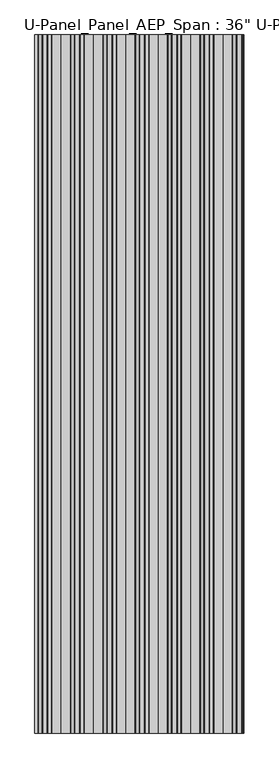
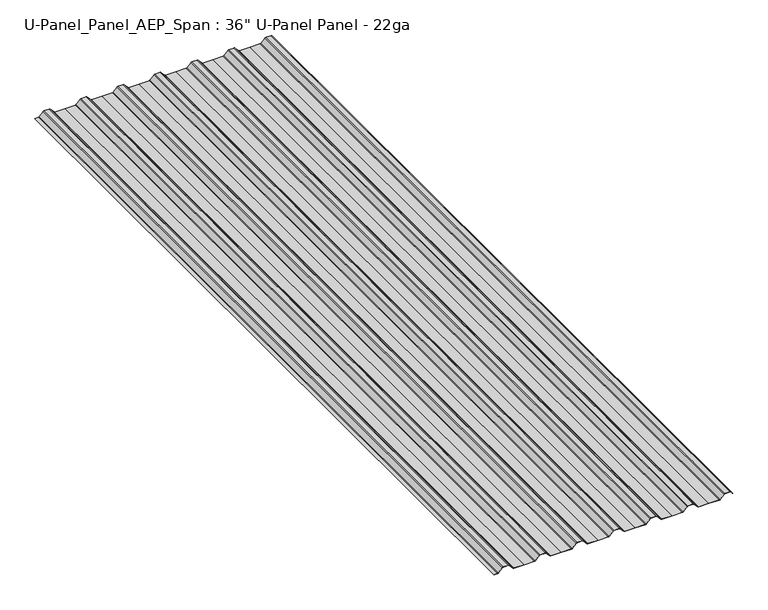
"""IFC4 building model written with IfcOpenShell, lengths in millimetres: proxy geometry."""

from ifc_helpers import new_model, si_unit, point, frame, frame_2d, origin, place, context, project, spatial, polyline, circle_curve, trimmed, segment, composite_curve, outline, extrude, source, transform, mapped, element, save


def proxy_758662c8(model_context):
    return source(origin(), model_context, "Body", "SweptSolid", [
        extrude(outline(composite_curve([segment(polyline([(15.6340253, 477.2313581), (10.9128032, 480.9199811), (11.3944474, 481.5364577), (16.11908, 477.8000439), (19.4700766, 474.6834496)]), True, "CONTINUOUS"), segment(trimmed(circle_curve(frame_2d((15.9337897, 470.8811948)), 5.1925395), [point((19.4700766, 474.6834496))], [point((21.1263292, 470.8811948))], False, "CARTESIAN"), True, "CONTINUOUS"), segment(polyline([(21.1263292, 470.8811948), (21.1263292, 449.7957586)]), True, "CONTINUOUS"), segment(trimmed(circle_curve(frame_2d((15.9337897, 449.7957586)), 5.1925395), [point((21.1263292, 449.7957586))], [point((19.4750932, 445.9981756))], False, "CARTESIAN"), True, "CONTINUOUS"), segment(polyline([(19.4750932, 445.9981756), (2.1208837, 429.8151135)]), True, "CONTINUOUS"), segment(trimmed(circle_curve(frame_2d((5.0678816, 426.6548452)), 4.3211216), [point((2.1208837, 429.8151135))], [point((0.74676, 426.6548452))], True, "CARTESIAN"), True, "CONTINUOUS"), segment(polyline([(0.74676, 426.6548452), (0.74676, 383.6154148), (0.74676, 340.5759844)]), True, "CONTINUOUS"), segment(trimmed(circle_curve(frame_2d((5.0678816, 340.5759844)), 4.3211216), [point((0.74676, 340.5759844))], [point((2.1208837, 337.4157161))], True, "CARTESIAN"), True, "CONTINUOUS"), segment(polyline([(2.1208837, 337.4157161), (19.4750932, 321.232654)]), True, "CONTINUOUS"), segment(trimmed(circle_curve(frame_2d((15.9337897, 317.435071)), 5.1925395), [point((19.4750932, 321.232654))], [point((21.1263292, 317.435071))], False, "CARTESIAN"), True, "CONTINUOUS"), segment(polyline([(21.1263292, 317.435071), (21.1263292, 296.3495927)]), True, "CONTINUOUS"), segment(trimmed(circle_curve(frame_2d((15.9337897, 296.3495927)), 5.1925395), [point((21.1263292, 296.3495927))], [point((19.4750932, 292.5520097))], False, "CARTESIAN"), True, "CONTINUOUS"), segment(polyline([(19.4750932, 292.5520097), (2.1208837, 276.3689476)]), True, "CONTINUOUS"), segment(trimmed(circle_curve(frame_2d((5.0678816, 273.2086793)), 4.3211216), [point((2.1208837, 276.3689476))], [point((0.74676, 273.2086793))], True, "CARTESIAN"), True, "CONTINUOUS"), segment(polyline([(0.74676, 273.2086793), (0.74676, 230.1692489), (0.74676, 187.1298184)]), True, "CONTINUOUS"), segment(trimmed(circle_curve(frame_2d((5.0678816, 187.1298184)), 4.3211216), [point((0.74676, 187.1298184))], [point((2.1208837, 183.9695502))], True, "CARTESIAN"), True, "CONTINUOUS"), segment(polyline([(2.1208837, 183.9695502), (19.4750932, 167.7864881)]), True, "CONTINUOUS"), segment(trimmed(circle_curve(frame_2d((15.9337897, 163.9889051)), 5.1925395), [point((19.4750932, 167.7864881))], [point((21.1263292, 163.9889051))], False, "CARTESIAN"), True, "CONTINUOUS"), segment(polyline([(21.1263292, 163.9889051), (21.1263292, 142.9034268)]), True, "CONTINUOUS"), segment(trimmed(circle_curve(frame_2d((15.9337897, 142.9034268)), 5.1925395), [point((21.1263292, 142.9034268))], [point((19.4750932, 139.1058437))], False, "CARTESIAN"), True, "CONTINUOUS"), segment(polyline([(19.4750932, 139.1058437), (2.1208837, 122.9227816)]), True, "CONTINUOUS"), segment(trimmed(circle_curve(frame_2d((5.0678816, 119.7625134)), 4.3211216), [point((2.1208837, 122.9227816))], [point((0.74676, 119.7625134))], True, "CARTESIAN"), True, "CONTINUOUS"), segment(polyline([(0.74676, 119.7625134), (0.74676, 76.723083), (0.74676, 33.6836525)]), True, "CONTINUOUS"), segment(trimmed(circle_curve(frame_2d((5.0678816, 33.6836525)), 4.3211216), [point((0.74676, 33.6836525))], [point((2.1208837, 30.5233843))], True, "CARTESIAN"), True, "CONTINUOUS"), segment(polyline([(2.1208837, 30.5233843), (19.4750932, 14.3403222)]), True, "CONTINUOUS"), segment(trimmed(circle_curve(frame_2d((15.9337897, 10.5427392)), 5.1925395), [point((19.4750932, 14.3403222))], [point((21.1263292, 10.5427392))], False, "CARTESIAN"), True, "CONTINUOUS"), segment(polyline([(21.1263292, 10.5427392), (21.1263292, -10.5427392)]), True, "CONTINUOUS"), segment(trimmed(circle_curve(frame_2d((15.9337897, -10.5427392)), 5.1925395), [point((21.1263292, -10.5427392))], [point((19.4750932, -14.3403222))], False, "CARTESIAN"), True, "CONTINUOUS"), segment(polyline([(19.4750932, -14.3403222), (2.1208837, -30.5233843)]), True, "CONTINUOUS"), segment(trimmed(circle_curve(frame_2d((5.0678816, -33.6836525)), 4.3211216), [point((2.1208837, -30.5233843))], [point((0.74676, -33.6836525))], True, "CARTESIAN"), True, "CONTINUOUS"), segment(polyline([(0.74676, -33.6836525), (0.74676, -76.723083), (0.74676, -119.7625134)]), True, "CONTINUOUS"), segment(trimmed(circle_curve(frame_2d((5.0678816, -119.7625134)), 4.3211216), [point((0.74676, -119.7625134))], [point((2.1208837, -122.9227816))], True, "CARTESIAN"), True, "CONTINUOUS"), segment(polyline([(2.1208837, -122.9227816), (19.4750932, -139.1058437)]), True, "CONTINUOUS"), segment(trimmed(circle_curve(frame_2d((15.9337897, -142.9034268)), 5.1925395), [point((19.4750932, -139.1058437))], [point((21.1263292, -142.9034268))], False, "CARTESIAN"), True, "CONTINUOUS"), segment(polyline([(21.1263292, -142.9034268), (21.1263292, -163.9889051)]), True, "CONTINUOUS"), segment(trimmed(circle_curve(frame_2d((15.9337897, -163.9889051)), 5.1925395), [point((21.1263292, -163.9889051))], [point((19.4750932, -167.7864881))], False, "CARTESIAN"), True, "CONTINUOUS"), segment(polyline([(19.4750932, -167.7864881), (2.1208837, -183.9695502)]), True, "CONTINUOUS"), segment(trimmed(circle_curve(frame_2d((5.0678816, -187.1298184)), 4.3211216), [point((2.1208837, -183.9695502))], [point((0.74676, -187.1298184))], True, "CARTESIAN"), True, "CONTINUOUS"), segment(polyline([(0.74676, -187.1298184), (0.74676, -230.1692489), (0.74676, -273.2086793)]), True, "CONTINUOUS"), segment(trimmed(circle_curve(frame_2d((5.0678816, -273.2086793)), 4.3211216), [point((0.74676, -273.2086793))], [point((2.1208837, -276.3689476))], True, "CARTESIAN"), True, "CONTINUOUS"), segment(polyline([(2.1208837, -276.3689476), (19.4750932, -292.5520097)]), True, "CONTINUOUS"), segment(trimmed(circle_curve(frame_2d((15.9337897, -296.3495927)), 5.1925395), [point((19.4750932, -292.5520097))], [point((21.1263292, -296.3495927))], False, "CARTESIAN"), True, "CONTINUOUS"), segment(polyline([(21.1263292, -296.3495927), (21.1263292, -317.435071)]), True, "CONTINUOUS"), segment(trimmed(circle_curve(frame_2d((15.9337897, -317.435071)), 5.1925395), [point((21.1263292, -317.435071))], [point((19.4750932, -321.232654))], False, "CARTESIAN"), True, "CONTINUOUS"), segment(polyline([(19.4750932, -321.232654), (2.1208837, -337.4157161)]), True, "CONTINUOUS"), segment(trimmed(circle_curve(frame_2d((5.0678816, -340.5759844)), 4.3211216), [point((2.1208837, -337.4157161))], [point((0.74676, -340.5759844))], True, "CARTESIAN"), True, "CONTINUOUS"), segment(polyline([(0.74676, -340.5759844), (0.74676, -383.6154148), (0.74676, -426.6548452)]), True, "CONTINUOUS"), segment(trimmed(circle_curve(frame_2d((5.0678816, -426.6548452)), 4.3211216), [point((0.74676, -426.6548452))], [point((2.1208837, -429.8151135))], True, "CARTESIAN"), True, "CONTINUOUS"), segment(polyline([(2.1208837, -429.8151135), (19.4750932, -445.9981756)]), True, "CONTINUOUS"), segment(trimmed(circle_curve(frame_2d((15.9337897, -449.7957586)), 5.1925395), [point((19.4750932, -445.9981756))], [point((21.1263292, -449.7957586))], False, "CARTESIAN"), True, "CONTINUOUS"), segment(polyline([(21.1263292, -449.7957586), (21.1263292, -470.8812369)]), True, "CONTINUOUS"), segment(trimmed(circle_curve(frame_2d((15.9337897, -470.8812369)), 5.1925395), [point((21.1263292, -470.8812369))], [point((19.4750932, -474.6788199))], False, "CARTESIAN"), True, "CONTINUOUS"), segment(polyline([(19.4750932, -474.6788199), (2.1208837, -490.861882)]), True, "CONTINUOUS"), segment(trimmed(circle_curve(frame_2d((5.0678816, -494.0221503)), 4.3211216), [point((2.1208837, -490.861882))], [point((0.74676, -494.0221503))], True, "CARTESIAN"), True, "CONTINUOUS"), segment(polyline([(0.74676, -494.0221503), (0.78232, -509.209136), (0.0, -509.209136), (0.0, -494.0425821)]), True, "CONTINUOUS"), segment(trimmed(circle_curve(frame_2d((5.1148716, -494.0425821)), 5.1148716), [point((0.0, -494.0425821))], [point((1.6265375, -490.3018019))], False, "CARTESIAN"), True, "CONTINUOUS"), segment(polyline([(1.6265375, -490.3018019), (18.980747, -474.1187398)]), True, "CONTINUOUS"), segment(trimmed(circle_curve(frame_2d((15.9807797, -470.9016688)), 4.3987895), [point((18.980747, -474.1187398))], [point((20.3795692, -470.9016688))], True, "CARTESIAN"), True, "CONTINUOUS"), segment(polyline([(20.3795692, -470.9016688), (20.3795692, -449.7753268)]), True, "CONTINUOUS"), segment(trimmed(circle_curve(frame_2d((15.9807797, -449.7753268)), 4.3987895), [point((20.3795692, -449.7753268))], [point((18.980747, -446.5582557))], True, "CARTESIAN"), True, "CONTINUOUS"), segment(polyline([(18.980747, -446.5582557), (1.6265375, -430.3751936)]), True, "CONTINUOUS"), segment(trimmed(circle_curve(frame_2d((5.1148716, -426.6344134)), 5.1148716), [point((1.6265375, -430.3751936))], [point((0.0, -426.6344134))], False, "CARTESIAN"), True, "CONTINUOUS"), segment(polyline([(0.0, -426.6344134), (0.0, -383.6154148), (0.0, -340.5964162)]), True, "CONTINUOUS"), segment(trimmed(circle_curve(frame_2d((5.1148716, -340.5964162)), 5.1148716), [point((0.0, -340.5964162))], [point((1.6265375, -336.855636))], False, "CARTESIAN"), True, "CONTINUOUS"), segment(polyline([(1.6265375, -336.855636), (18.980747, -320.6725739)]), True, "CONTINUOUS"), segment(trimmed(circle_curve(frame_2d((15.9807797, -317.4555028)), 4.3987895), [point((18.980747, -320.6725739))], [point((20.3795692, -317.4555028))], True, "CARTESIAN"), True, "CONTINUOUS"), segment(polyline([(20.3795692, -317.4555028), (20.3795692, -296.3291608)]), True, "CONTINUOUS"), segment(trimmed(circle_curve(frame_2d((15.9807797, -296.3291608)), 4.3987895), [point((20.3795692, -296.3291608))], [point((18.980747, -293.1120898))], True, "CARTESIAN"), True, "CONTINUOUS"), segment(polyline([(18.980747, -293.1120898), (1.6265375, -276.9290277)]), True, "CONTINUOUS"), segment(trimmed(circle_curve(frame_2d((5.1148716, -273.1882475)), 5.1148716), [point((1.6265375, -276.9290277))], [point((0.0, -273.1882475))], False, "CARTESIAN"), True, "CONTINUOUS"), segment(polyline([(0.0, -273.1882475), (0.0, -230.1692489), (0.0, -187.1502503)]), True, "CONTINUOUS"), segment(trimmed(circle_curve(frame_2d((5.1148716, -187.1502503)), 5.1148716), [point((0.0, -187.1502503))], [point((1.6265375, -183.40947))], False, "CARTESIAN"), True, "CONTINUOUS"), segment(polyline([(1.6265375, -183.40947), (18.980747, -167.2264079)]), True, "CONTINUOUS"), segment(trimmed(circle_curve(frame_2d((15.9807797, -164.0093369)), 4.3987895), [point((18.980747, -167.2264079))], [point((20.3795692, -164.0093369))], True, "CARTESIAN"), True, "CONTINUOUS"), segment(polyline([(20.3795692, -164.0093369), (20.3795692, -142.8829949)]), True, "CONTINUOUS"), segment(trimmed(circle_curve(frame_2d((15.9807797, -142.8829949)), 4.3987895), [point((20.3795692, -142.8829949))], [point((18.980747, -139.6659239))], True, "CARTESIAN"), True, "CONTINUOUS"), segment(polyline([(18.980747, -139.6659239), (1.6265375, -123.4828618)]), True, "CONTINUOUS"), segment(trimmed(circle_curve(frame_2d((5.1148716, -119.7420816)), 5.1148716), [point((1.6265375, -123.4828618))], [point((0.0, -119.7420816))], False, "CARTESIAN"), True, "CONTINUOUS"), segment(polyline([(0.0, -119.7420816), (0.0, -76.723083), (0.0, -33.7040844)]), True, "CONTINUOUS"), segment(trimmed(circle_curve(frame_2d((5.1148716, -33.7040844)), 5.1148716), [point((0.0, -33.7040844))], [point((1.6265375, -29.9633041))], False, "CARTESIAN"), True, "CONTINUOUS"), segment(polyline([(1.6265375, -29.9633041), (18.980747, -13.780242)]), True, "CONTINUOUS"), segment(trimmed(circle_curve(frame_2d((15.9807797, -10.563171)), 4.3987895), [point((18.980747, -13.780242))], [point((20.3795692, -10.563171))], True, "CARTESIAN"), True, "CONTINUOUS"), segment(polyline([(20.3795692, -10.563171), (20.3795692, 10.563171)]), True, "CONTINUOUS"), segment(trimmed(circle_curve(frame_2d((15.9807797, 10.563171)), 4.3987895), [point((20.3795692, 10.563171))], [point((18.980747, 13.780242))], True, "CARTESIAN"), True, "CONTINUOUS"), segment(polyline([(18.980747, 13.780242), (1.6265375, 29.9633041)]), True, "CONTINUOUS"), segment(trimmed(circle_curve(frame_2d((5.1148716, 33.7040844)), 5.1148716), [point((1.6265375, 29.9633041))], [point((0.0, 33.7040844))], False, "CARTESIAN"), True, "CONTINUOUS"), segment(polyline([(0.0, 33.7040844), (0.0, 76.723083), (0.0, 119.7420816)]), True, "CONTINUOUS"), segment(trimmed(circle_curve(frame_2d((5.1148716, 119.7420816)), 5.1148716), [point((0.0, 119.7420816))], [point((1.6265375, 123.4828618))], False, "CARTESIAN"), True, "CONTINUOUS"), segment(polyline([(1.6265375, 123.4828618), (18.980747, 139.6659239)]), True, "CONTINUOUS"), segment(trimmed(circle_curve(frame_2d((15.9807797, 142.8829949)), 4.3987895), [point((18.980747, 139.6659239))], [point((20.3795692, 142.8829949))], True, "CARTESIAN"), True, "CONTINUOUS"), segment(polyline([(20.3795692, 142.8829949), (20.3795692, 164.0093369)]), True, "CONTINUOUS"), segment(trimmed(circle_curve(frame_2d((15.9807797, 164.0093369)), 4.3987895), [point((20.3795692, 164.0093369))], [point((18.980747, 167.2264079))], True, "CARTESIAN"), True, "CONTINUOUS"), segment(polyline([(18.980747, 167.2264079), (1.6265375, 183.40947)]), True, "CONTINUOUS"), segment(trimmed(circle_curve(frame_2d((5.1148716, 187.1502503)), 5.1148716), [point((1.6265375, 183.40947))], [point((0.0, 187.1502503))], False, "CARTESIAN"), True, "CONTINUOUS"), segment(polyline([(0.0, 187.1502503), (0.0, 230.1692489), (0.0, 273.1882475)]), True, "CONTINUOUS"), segment(trimmed(circle_curve(frame_2d((5.1148716, 273.1882475)), 5.1148716), [point((0.0, 273.1882475))], [point((1.6265375, 276.9290277))], False, "CARTESIAN"), True, "CONTINUOUS"), segment(polyline([(1.6265375, 276.9290277), (18.980747, 293.1120898)]), True, "CONTINUOUS"), segment(trimmed(circle_curve(frame_2d((15.9807797, 296.3291608)), 4.3987895), [point((18.980747, 293.1120898))], [point((20.3795692, 296.3291608))], True, "CARTESIAN"), True, "CONTINUOUS"), segment(polyline([(20.3795692, 296.3291608), (20.3795692, 317.4555028)]), True, "CONTINUOUS"), segment(trimmed(circle_curve(frame_2d((15.9807797, 317.4555028)), 4.3987895), [point((20.3795692, 317.4555028))], [point((18.980747, 320.6725739))], True, "CARTESIAN"), True, "CONTINUOUS"), segment(polyline([(18.980747, 320.6725739), (1.6265375, 336.855636)]), True, "CONTINUOUS"), segment(trimmed(circle_curve(frame_2d((5.1148716, 340.5964162)), 5.1148716), [point((1.6265375, 336.855636))], [point((0.0, 340.5964162))], False, "CARTESIAN"), True, "CONTINUOUS"), segment(polyline([(0.0, 340.5964162), (0.0, 383.6154148), (0.0, 426.6344134)]), True, "CONTINUOUS"), segment(trimmed(circle_curve(frame_2d((5.1148716, 426.6344134)), 5.1148716), [point((0.0, 426.6344134))], [point((1.6265375, 430.3751936))], False, "CARTESIAN"), True, "CONTINUOUS"), segment(polyline([(1.6265375, 430.3751936), (18.980747, 446.5582557)]), True, "CONTINUOUS"), segment(trimmed(circle_curve(frame_2d((15.9807797, 449.7753268)), 4.3987895), [point((18.980747, 446.5582557))], [point((20.3795692, 449.7753268))], True, "CARTESIAN"), True, "CONTINUOUS"), segment(polyline([(20.3795692, 449.7753268), (20.3795692, 470.9016688)]), True, "CONTINUOUS"), segment(trimmed(circle_curve(frame_2d((15.9807797, 470.9016688)), 4.3987895), [point((20.3795692, 470.9016688))], [point((18.9807463, 474.1187404))], True, "CARTESIAN"), True, "CONTINUOUS"), segment(polyline([(18.9807463, 474.1187404), (15.6340253, 477.2313581)]), True, "CONTINUOUS")], self_intersect=False)), frame((0.0, -3302.0, 0.0), z_axis=(0.0, 1.0, 0.0), x_axis=(0.0, 0.0, 1.0)), (0.0, 0.0, 1.0), 3302.0),
    ])


if __name__ == "__main__":
    model = new_model("IFC4")
    model_context = context("Model", 3, world=origin())
    ifc_project = project(units=[si_unit("LENGTHUNIT", "METRE", prefix="MILLI")], contexts=[model_context])
    site = spatial("IfcSite", under=ifc_project)
    building = spatial("IfcBuilding", under=site)
    placement = place(None, origin())
    proxy_shape = proxy_758662c8(model_context)
    element("IfcBuildingElementProxy", 1, Name="U-Panel_Panel_AEP_Span : 36\" U-Panel Panel - 22ga", ObjectType="U-Panel_Panel_AEP_Span : 36\" U-Panel Panel - 22ga", at=placement, inside=building, context=model_context, shape_type="MappedRepresentation", body=[
        mapped(proxy_shape, transform((0.0, 0.0, 0.0), x_axis=(1.0, 0.0, 0.0), y_axis=(0.0, 1.0, 0.0), z_axis=(0.0, 0.0, 1.0))),
    ])
    save(model, "model.ifc")
